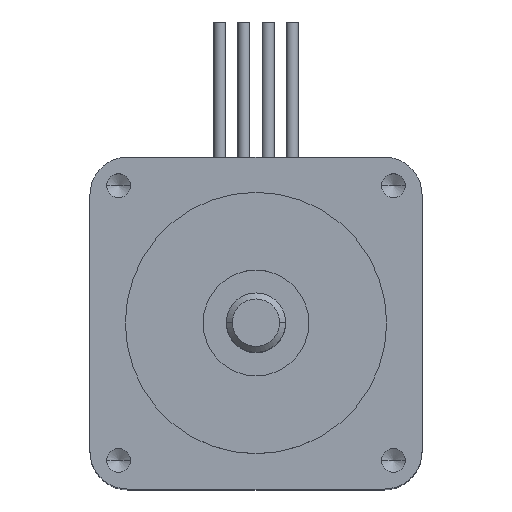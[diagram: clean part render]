
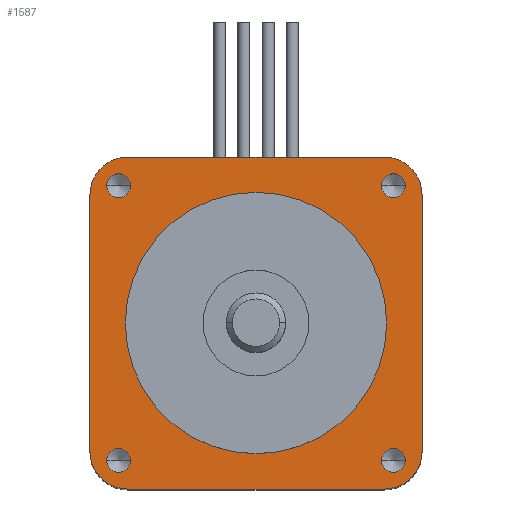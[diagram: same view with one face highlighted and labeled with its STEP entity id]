
A CAD part, top view. The second image highlights one B-rep face of the part: STEP entity #1587.
In plain terms, the highlighted planar face has unit normal (0, 0, 1).
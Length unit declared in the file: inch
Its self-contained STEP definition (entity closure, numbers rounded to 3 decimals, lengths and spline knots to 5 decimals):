
#185=CARTESIAN_POINT('',(-0.433,0.,1.75));
#186=VERTEX_POINT('',#185);
#195=CARTESIAN_POINT('',(0.433,0.,1.75));
#196=VERTEX_POINT('',#195);
#197=CARTESIAN_POINT('',(0.0,0.0,1.75));
#198=DIRECTION('',(0.0,0.0,-1.0));
#199=DIRECTION('',(-1.0,0.0,0.0));
#200=AXIS2_PLACEMENT_3D('',#197,#198,#199);
#201=CIRCLE('',#200,0.433);
#202=EDGE_CURVE('',#196,#186,#201,.T.);
#540=CARTESIAN_POINT('',(0.4945,0.455,1.75));
#541=VERTEX_POINT('',#540);
#557=CARTESIAN_POINT('',(0.4155,0.455,1.75));
#558=VERTEX_POINT('',#557);
#565=CARTESIAN_POINT('',(0.455,0.455,1.75));
#566=DIRECTION('',(0.0,0.0,-1.0));
#567=DIRECTION('',(1.0,0.0,0.0));
#568=AXIS2_PLACEMENT_3D('',#565,#566,#567);
#569=CIRCLE('',#568,0.0395);
#570=EDGE_CURVE('',#541,#558,#569,.T.);
#653=CARTESIAN_POINT('',(-0.4155,-0.455,1.75));
#654=VERTEX_POINT('',#653);
#670=CARTESIAN_POINT('',(-0.4945,-0.455,1.75));
#671=VERTEX_POINT('',#670);
#678=CARTESIAN_POINT('',(-0.455,-0.455,1.75));
#679=DIRECTION('',(0.0,0.0,-1.0));
#680=DIRECTION('',(1.0,0.0,0.0));
#681=AXIS2_PLACEMENT_3D('',#678,#679,#680);
#682=CIRCLE('',#681,0.0395);
#683=EDGE_CURVE('',#654,#671,#682,.T.);
#766=CARTESIAN_POINT('',(-0.4155,0.455,1.75));
#767=VERTEX_POINT('',#766);
#783=CARTESIAN_POINT('',(-0.4945,0.455,1.75));
#784=VERTEX_POINT('',#783);
#791=CARTESIAN_POINT('',(-0.455,0.455,1.75));
#792=DIRECTION('',(0.0,0.0,-1.0));
#793=DIRECTION('',(1.0,0.0,0.0));
#794=AXIS2_PLACEMENT_3D('',#791,#792,#793);
#795=CIRCLE('',#794,0.0395);
#796=EDGE_CURVE('',#767,#784,#795,.T.);
#879=CARTESIAN_POINT('',(0.4945,-0.455,1.75));
#880=VERTEX_POINT('',#879);
#896=CARTESIAN_POINT('',(0.4155,-0.455,1.75));
#897=VERTEX_POINT('',#896);
#904=CARTESIAN_POINT('',(0.455,-0.455,1.75));
#905=DIRECTION('',(0.0,0.0,-1.0));
#906=DIRECTION('',(1.0,0.0,0.0));
#907=AXIS2_PLACEMENT_3D('',#904,#905,#906);
#908=CIRCLE('',#907,0.0395);
#909=EDGE_CURVE('',#880,#897,#908,.T.);
#1023=CARTESIAN_POINT('',(0.455,-0.455,1.75));
#1024=DIRECTION('',(0.0,0.0,-1.0));
#1025=DIRECTION('',(1.0,0.0,0.0));
#1026=AXIS2_PLACEMENT_3D('',#1023,#1024,#1025);
#1027=CIRCLE('',#1026,0.0395);
#1028=EDGE_CURVE('',#897,#880,#1027,.T.);
#1094=CARTESIAN_POINT('',(-0.455,0.455,1.75));
#1095=DIRECTION('',(0.0,0.0,-1.0));
#1096=DIRECTION('',(1.0,0.0,0.0));
#1097=AXIS2_PLACEMENT_3D('',#1094,#1095,#1096);
#1098=CIRCLE('',#1097,0.0395);
#1099=EDGE_CURVE('',#784,#767,#1098,.T.);
#1165=CARTESIAN_POINT('',(-0.455,-0.455,1.75));
#1166=DIRECTION('',(0.0,0.0,-1.0));
#1167=DIRECTION('',(1.0,0.0,0.0));
#1168=AXIS2_PLACEMENT_3D('',#1165,#1166,#1167);
#1169=CIRCLE('',#1168,0.0395);
#1170=EDGE_CURVE('',#671,#654,#1169,.T.);
#1236=CARTESIAN_POINT('',(0.455,0.455,1.75));
#1237=DIRECTION('',(0.0,0.0,-1.0));
#1238=DIRECTION('',(1.0,0.0,0.0));
#1239=AXIS2_PLACEMENT_3D('',#1236,#1237,#1238);
#1240=CIRCLE('',#1239,0.0395);
#1241=EDGE_CURVE('',#558,#541,#1240,.T.);
#1468=CARTESIAN_POINT('',(0.0,0.0,1.75));
#1469=DIRECTION('',(0.0,0.0,-1.0));
#1470=DIRECTION('',(-1.0,0.0,0.0));
#1471=AXIS2_PLACEMENT_3D('',#1468,#1469,#1470);
#1472=CIRCLE('',#1471,0.433);
#1473=EDGE_CURVE('',#186,#196,#1472,.T.);
#1492=CARTESIAN_POINT('',(0.0,0.0,1.75));
#1493=DIRECTION('',(0.0,0.0,1.0));
#1494=DIRECTION('',(1.0,0.0,0.0));
#1495=AXIS2_PLACEMENT_3D('',#1492,#1493,#1494);
#1496=PLANE('',#1495);
#1497=CARTESIAN_POINT('',(-0.425,0.55,1.75));
#1498=VERTEX_POINT('',#1497);
#1499=CARTESIAN_POINT('',(-0.55,0.425,1.75));
#1500=VERTEX_POINT('',#1499);
#1501=CARTESIAN_POINT('',(-0.425,0.425,1.75));
#1502=DIRECTION('',(0.0,0.0,1.0));
#1503=DIRECTION('',(0.0,1.0,0.0));
#1504=AXIS2_PLACEMENT_3D('',#1501,#1502,#1503);
#1505=CIRCLE('',#1504,0.125);
#1506=EDGE_CURVE('',#1498,#1500,#1505,.T.);
#1507=ORIENTED_EDGE('',*,*,#1506,.T.);
#1508=CARTESIAN_POINT('',(-0.55,-0.425,1.75));
#1509=VERTEX_POINT('',#1508);
#1510=CARTESIAN_POINT('',(-0.55,0.425,1.75));
#1511=DIRECTION('',(0.0,-1.0,0.0));
#1512=VECTOR('',#1511,0.85);
#1513=LINE('',#1510,#1512);
#1514=EDGE_CURVE('',#1500,#1509,#1513,.T.);
#1515=ORIENTED_EDGE('',*,*,#1514,.T.);
#1516=CARTESIAN_POINT('',(-0.425,-0.55,1.75));
#1517=VERTEX_POINT('',#1516);
#1518=CARTESIAN_POINT('',(-0.425,-0.425,1.75));
#1519=DIRECTION('',(0.0,0.0,1.0));
#1520=DIRECTION('',(-1.0,0.0,0.0));
#1521=AXIS2_PLACEMENT_3D('',#1518,#1519,#1520);
#1522=CIRCLE('',#1521,0.125);
#1523=EDGE_CURVE('',#1509,#1517,#1522,.T.);
#1524=ORIENTED_EDGE('',*,*,#1523,.T.);
#1525=CARTESIAN_POINT('',(0.425,-0.55,1.75));
#1526=VERTEX_POINT('',#1525);
#1527=CARTESIAN_POINT('',(-0.425,-0.55,1.75));
#1528=DIRECTION('',(1.0,0.0,0.0));
#1529=VECTOR('',#1528,0.85);
#1530=LINE('',#1527,#1529);
#1531=EDGE_CURVE('',#1517,#1526,#1530,.T.);
#1532=ORIENTED_EDGE('',*,*,#1531,.T.);
#1533=CARTESIAN_POINT('',(0.55,-0.425,1.75));
#1534=VERTEX_POINT('',#1533);
#1535=CARTESIAN_POINT('',(0.425,-0.425,1.75));
#1536=DIRECTION('',(0.0,0.0,1.0));
#1537=DIRECTION('',(0.0,-1.0,0.0));
#1538=AXIS2_PLACEMENT_3D('',#1535,#1536,#1537);
#1539=CIRCLE('',#1538,0.125);
#1540=EDGE_CURVE('',#1526,#1534,#1539,.T.);
#1541=ORIENTED_EDGE('',*,*,#1540,.T.);
#1542=CARTESIAN_POINT('',(0.55,0.425,1.75));
#1543=VERTEX_POINT('',#1542);
#1544=CARTESIAN_POINT('',(0.55,-0.425,1.75));
#1545=DIRECTION('',(0.0,1.0,0.0));
#1546=VECTOR('',#1545,0.85);
#1547=LINE('',#1544,#1546);
#1548=EDGE_CURVE('',#1534,#1543,#1547,.T.);
#1549=ORIENTED_EDGE('',*,*,#1548,.T.);
#1550=CARTESIAN_POINT('',(0.425,0.55,1.75));
#1551=VERTEX_POINT('',#1550);
#1552=CARTESIAN_POINT('',(0.425,0.425,1.75));
#1553=DIRECTION('',(0.0,0.0,1.0));
#1554=DIRECTION('',(1.0,0.0,0.0));
#1555=AXIS2_PLACEMENT_3D('',#1552,#1553,#1554);
#1556=CIRCLE('',#1555,0.125);
#1557=EDGE_CURVE('',#1543,#1551,#1556,.T.);
#1558=ORIENTED_EDGE('',*,*,#1557,.T.);
#1559=CARTESIAN_POINT('',(0.425,0.55,1.75));
#1560=DIRECTION('',(-1.0,0.0,0.0));
#1561=VECTOR('',#1560,0.85);
#1562=LINE('',#1559,#1561);
#1563=EDGE_CURVE('',#1551,#1498,#1562,.T.);
#1564=ORIENTED_EDGE('',*,*,#1563,.T.);
#1565=EDGE_LOOP('',(#1507,#1515,#1524,#1532,#1541,#1549,#1558,#1564));
#1566=FACE_OUTER_BOUND('',#1565,.T.);
#1567=ORIENTED_EDGE('',*,*,#909,.T.);
#1568=ORIENTED_EDGE('',*,*,#1028,.T.);
#1569=EDGE_LOOP('',(#1567,#1568));
#1570=FACE_BOUND('',#1569,.T.);
#1571=ORIENTED_EDGE('',*,*,#796,.T.);
#1572=ORIENTED_EDGE('',*,*,#1099,.T.);
#1573=EDGE_LOOP('',(#1571,#1572));
#1574=FACE_BOUND('',#1573,.T.);
#1575=ORIENTED_EDGE('',*,*,#683,.T.);
#1576=ORIENTED_EDGE('',*,*,#1170,.T.);
#1577=EDGE_LOOP('',(#1575,#1576));
#1578=FACE_BOUND('',#1577,.T.);
#1579=ORIENTED_EDGE('',*,*,#570,.T.);
#1580=ORIENTED_EDGE('',*,*,#1241,.T.);
#1581=EDGE_LOOP('',(#1579,#1580));
#1582=FACE_BOUND('',#1581,.T.);
#1583=ORIENTED_EDGE('',*,*,#202,.T.);
#1584=ORIENTED_EDGE('',*,*,#1473,.T.);
#1585=EDGE_LOOP('',(#1583,#1584));
#1586=FACE_BOUND('',#1585,.T.);
#1587=ADVANCED_FACE('',(#1566,#1570,#1574,#1578,#1582,#1586),#1496,.T.);
